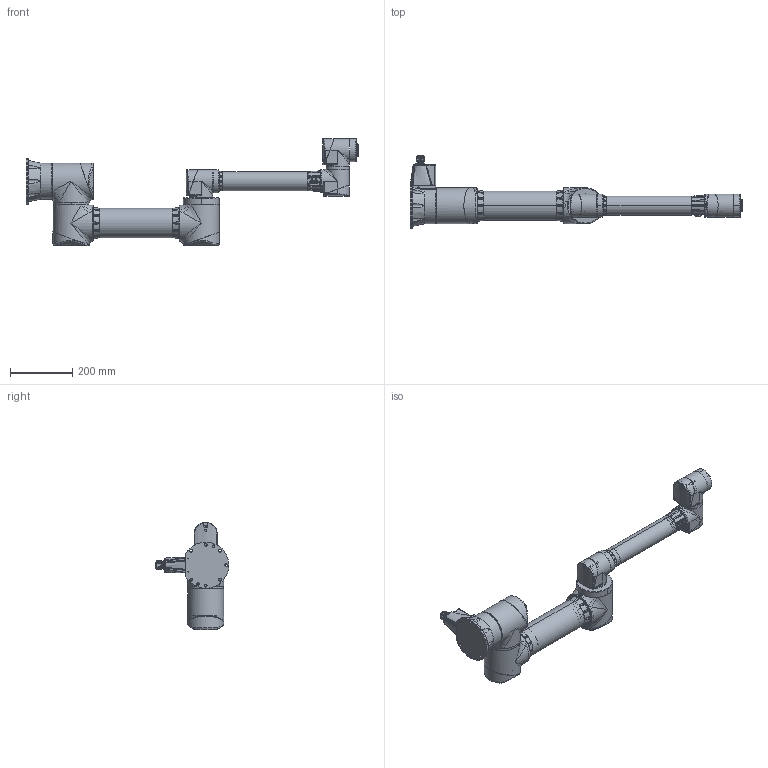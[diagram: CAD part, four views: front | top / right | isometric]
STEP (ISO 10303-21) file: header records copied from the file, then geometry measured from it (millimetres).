
FILE_DESCRIPTION((''),'2;1');
FILE_NAME('ZRA_0507N_ASM','2022-11-10T09:24:15',('ChoSeongHee'),(''),'CREO PARAMETRIC BY PTC INC, 2020354','CREO PARAMETRIC BY PTC INC, 2020354','');
FILE_SCHEMA(('CONFIG_CONTROL_DESIGN'));
Products named in the file (25): FLANGE_B; HOLDER_M; COVER_M; MODULE_M_ASM; RING_M; ARM1_PIPE; FLANGE_ARM1; ARM1_ASM; FLANGE_J3; HOLDER_S; COVER_S; MODULE_S_ASM; PIPE2; FLANGE_J4; FLANGE_J5; PLATE; PORT; ARM2_ASM; FLANGE_E; RING_S; COVER_J; CABLE; PLATE_J; COVER_J_ASM; ZRA_0507N_ASM
Assembly tree (29 placements, depth 3):
  ZRA_0507N_ASM
    FLANGE_B
    MODULE_M_ASM  x3
      HOLDER_M
      COVER_M
    RING_M
    ARM1_ASM
      ARM1_PIPE
      FLANGE_ARM1  x2
    FLANGE_J3
    MODULE_S_ASM  x3
      HOLDER_S
      COVER_S
    ARM2_ASM
      PIPE2
      FLANGE_J4
      FLANGE_J5
      PLATE
      PORT
    FLANGE_E
    RING_S
    COVER_J_ASM
      COVER_J
      CABLE
      PLATE_J
Bounding box: 1070.1 x 237.3 x 344.89 mm (x, y, z)
Volume: 12366203.6 mm3; surface area: 942687.1 mm2
Topology: 28 solids, 212 shells, 3861 faces, 10478 edges, 6914 vertices
Faces by surface type: cylinder 1409, plane 1297, bspline 650, torus 269, cone 210, sphere 18, extrusion 8
Entity records: 146255 total; most frequent: CARTESIAN_POINT 72340, ORIENTED_EDGE 16264, DIRECTION 13894, EDGE_CURVE 8266, VERTEX_POINT 5414, AXIS2_PLACEMENT_3D 5218, VECTOR 3458, LINE 3450
